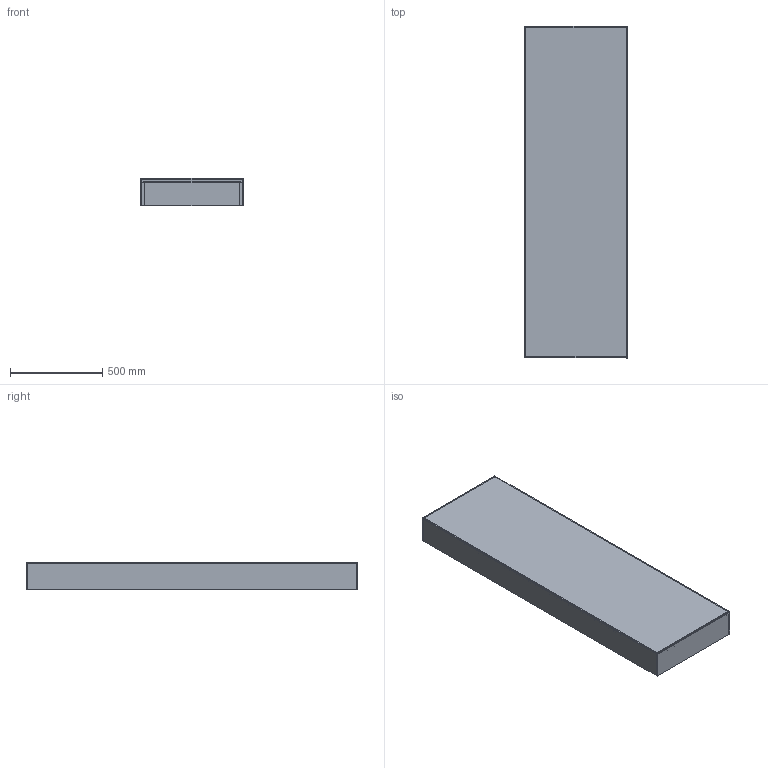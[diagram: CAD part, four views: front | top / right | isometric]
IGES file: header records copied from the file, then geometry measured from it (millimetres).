
Start section:  PTC IGES file: GPF5403700000G000_1.igs  PTC IGES file: gpf5403800000g000_asm.igs  PTC IGES file: GPF5420600000G001_1.igs  PTC IGES file: GPF5403200000G000_1.igs  PTC IGES file: T:\User\Fabio Oggero\Articoli IGS\Rettangolo\Accessori\2 0939_igs.igs  PTC IGES file: gpf5473810000g000_asm.igs  PTC IGES file: GPF6309900000G000_1.igs  PTC IGES file: GPF6301400000G000_1.igs  PTC IGES file: GPF3360700000G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
Global section: file name: \\Archi-NAS\Comune\X GIOVANNI\SCHEDE PRODOTTO\PIANI LAVABO\STONEWARE TOP\3D\MOMA DESIGN_PIANI LAVABO_STONEWARE TOP SYSTEM.igs; native system: Rhinoceros ( Jan 17 2018 ); preprocessor: Trout Lake IGES 012 Jan 17 2018; date: 230614.085146; units: millimetre
Bounding box: 557.17 x 1800 x 150 mm (x, y, z)
Surface area: 6933322 mm2 (no closed solid volume)
Topology: 0 solids, 0 shells, 60 faces, 241 edges, 242 vertices
Faces by surface type: bspline 60
